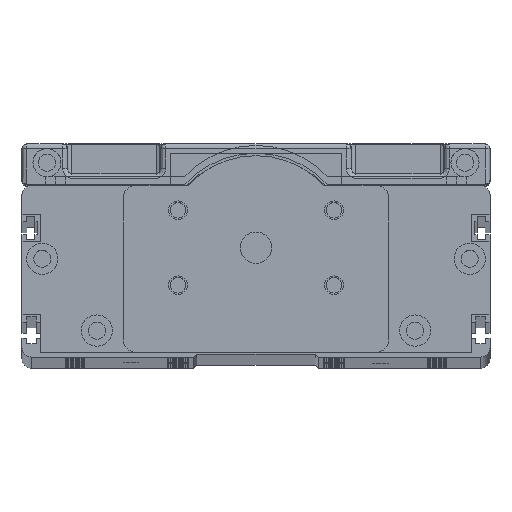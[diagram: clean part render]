
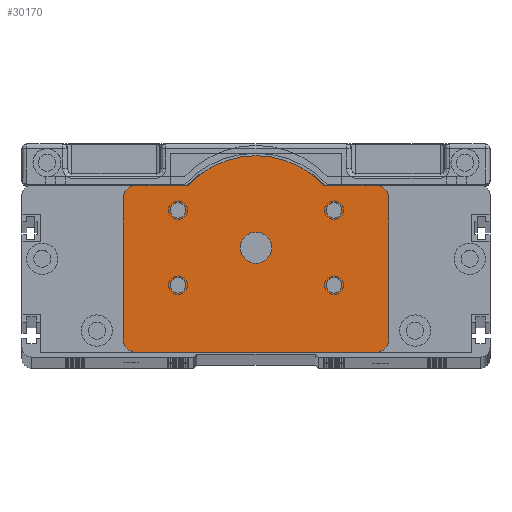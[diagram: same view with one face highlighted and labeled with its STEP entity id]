
A CAD part, top view. The second image highlights one B-rep face of the part: STEP entity #30170.
In plain terms, the highlighted planar face has unit normal (0, 0, 1).
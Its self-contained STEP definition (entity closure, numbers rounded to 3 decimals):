
#28812=CARTESIAN_POINT('',(38.5,49.5,29.));
#28813=DIRECTION('',(0.,0.,1.));
#28814=DIRECTION('',(1.,0.,0.));
#28815=AXIS2_PLACEMENT_3D('',#28812,#28813,#28814);
#28821=CARTESIAN_POINT('',(38.5,4.,29.));
#28822=DIRECTION('',(0.,0.,1.));
#28823=DIRECTION('',(0.,-1.,0.));
#28824=AXIS2_PLACEMENT_3D('',#28821,#28822,#28823);
#28973=CARTESIAN_POINT('',(-38.5,49.5,29.));
#28974=DIRECTION('',(0.,0.,1.));
#28975=DIRECTION('',(0.,1.,0.));
#28976=AXIS2_PLACEMENT_3D('',#28973,#28974,#28975);
#28987=DIRECTION('',(0.,1.,0.));
#28988=VECTOR('',#28987,45.5);
#28989=CARTESIAN_POINT('',(42.5,4.,29.));
#28990=LINE('',#28989,#28988);
#28991=DIRECTION('',(1.,0.,0.));
#28992=VECTOR('',#28991,77.);
#28993=CARTESIAN_POINT('',(-38.5,0.,29.));
#28994=LINE('',#28993,#28992);
#28995=DIRECTION('',(0.,1.,0.));
#28996=VECTOR('',#28995,45.5);
#28997=CARTESIAN_POINT('',(-42.5,4.,29.));
#28998=LINE('',#28997,#28996);
#28999=DIRECTION('',(-1.,0.,0.));
#29000=VECTOR('',#28999,16.815);
#29001=CARTESIAN_POINT('',(-21.685,53.5,29.));
#29002=LINE('',#29001,#29000);
#29003=CARTESIAN_POINT('',(0.,33.5,29.));
#29004=DIRECTION('',(0.,0.,1.));
#29005=DIRECTION('',(0.735,0.678,0.));
#29006=AXIS2_PLACEMENT_3D('',#29003,#29004,#29005);
#29008=DIRECTION('',(-1.,0.,0.));
#29009=VECTOR('',#29008,16.815);
#29010=CARTESIAN_POINT('',(38.5,53.5,29.));
#29011=LINE('',#29010,#29009);
#29012=CARTESIAN_POINT('',(0.,33.5,29.));
#29013=DIRECTION('',(0.,0.,1.));
#29014=DIRECTION('',(1.,0.,0.));
#29015=AXIS2_PLACEMENT_3D('',#29012,#29013,#29014);
#29017=CARTESIAN_POINT('',(0.,33.5,29.));
#29018=DIRECTION('',(0.,0.,1.));
#29019=DIRECTION('',(-1.,0.,0.));
#29020=AXIS2_PLACEMENT_3D('',#29017,#29018,#29019);
#29022=CARTESIAN_POINT('',(25.,45.5,29.));
#29023=DIRECTION('',(0.,0.,-1.));
#29024=DIRECTION('',(-1.,0.,0.));
#29025=AXIS2_PLACEMENT_3D('',#29022,#29023,#29024);
#29027=CARTESIAN_POINT('',(25.,45.5,29.));
#29028=DIRECTION('',(0.,0.,-1.));
#29029=DIRECTION('',(1.,0.,0.));
#29030=AXIS2_PLACEMENT_3D('',#29027,#29028,#29029);
#29032=CARTESIAN_POINT('',(25.,21.5,29.));
#29033=DIRECTION('',(0.,0.,1.));
#29034=DIRECTION('',(-1.,0.,0.));
#29035=AXIS2_PLACEMENT_3D('',#29032,#29033,#29034);
#29037=CARTESIAN_POINT('',(25.,21.5,29.));
#29038=DIRECTION('',(0.,0.,1.));
#29039=DIRECTION('',(1.,0.,0.));
#29040=AXIS2_PLACEMENT_3D('',#29037,#29038,#29039);
#29042=CARTESIAN_POINT('',(-25.,45.5,29.));
#29043=DIRECTION('',(0.,0.,1.));
#29044=DIRECTION('',(1.,0.,0.));
#29045=AXIS2_PLACEMENT_3D('',#29042,#29043,#29044);
#29047=CARTESIAN_POINT('',(-25.,45.5,29.));
#29048=DIRECTION('',(0.,0.,1.));
#29049=DIRECTION('',(-1.,0.,0.));
#29050=AXIS2_PLACEMENT_3D('',#29047,#29048,#29049);
#29052=CARTESIAN_POINT('',(-25.,21.5,29.));
#29053=DIRECTION('',(0.,0.,-1.));
#29054=DIRECTION('',(1.,0.,0.));
#29055=AXIS2_PLACEMENT_3D('',#29052,#29053,#29054);
#29057=CARTESIAN_POINT('',(-25.,21.5,29.));
#29058=DIRECTION('',(0.,0.,-1.));
#29059=DIRECTION('',(-1.,0.,0.));
#29060=AXIS2_PLACEMENT_3D('',#29057,#29058,#29059);
#29075=CARTESIAN_POINT('',(-38.5,4.,29.));
#29076=DIRECTION('',(0.,0.,1.));
#29077=DIRECTION('',(-1.,0.,0.));
#29078=AXIS2_PLACEMENT_3D('',#29075,#29076,#29077);
#29304=CARTESIAN_POINT('',(21.685,53.5,29.));
#29305=CARTESIAN_POINT('',(-21.685,53.5,29.));
#29306=VERTEX_POINT('',#29304);
#29307=VERTEX_POINT('',#29305);
#29352=CARTESIAN_POINT('',(38.5,53.5,29.));
#29354=VERTEX_POINT('',#29352);
#29356=CARTESIAN_POINT('',(42.5,49.5,29.));
#29358=VERTEX_POINT('',#29356);
#29361=CARTESIAN_POINT('',(38.5,0.,29.));
#29363=VERTEX_POINT('',#29361);
#29364=CARTESIAN_POINT('',(42.5,4.,29.));
#29365=VERTEX_POINT('',#29364);
#29369=CARTESIAN_POINT('',(-38.5,53.5,29.));
#29371=VERTEX_POINT('',#29369);
#29372=CARTESIAN_POINT('',(-42.5,49.5,29.));
#29373=VERTEX_POINT('',#29372);
#29376=CARTESIAN_POINT('',(-38.5,0.,29.));
#29378=VERTEX_POINT('',#29376);
#29380=CARTESIAN_POINT('',(-42.5,4.,29.));
#29382=VERTEX_POINT('',#29380);
#29392=CARTESIAN_POINT('',(22.5,45.5,29.));
#29393=CARTESIAN_POINT('',(27.5,45.5,29.));
#29394=VERTEX_POINT('',#29392);
#29395=VERTEX_POINT('',#29393);
#29400=CARTESIAN_POINT('',(22.5,21.5,29.));
#29401=CARTESIAN_POINT('',(27.5,21.5,29.));
#29402=VERTEX_POINT('',#29400);
#29403=VERTEX_POINT('',#29401);
#29408=CARTESIAN_POINT('',(-22.5,45.5,29.));
#29409=CARTESIAN_POINT('',(-27.5,45.5,29.));
#29410=VERTEX_POINT('',#29408);
#29411=VERTEX_POINT('',#29409);
#29416=CARTESIAN_POINT('',(-22.5,21.5,29.));
#29417=CARTESIAN_POINT('',(-27.5,21.5,29.));
#29418=VERTEX_POINT('',#29416);
#29419=VERTEX_POINT('',#29417);
#29540=CARTESIAN_POINT('',(5.,33.5,29.));
#29541=CARTESIAN_POINT('',(-5.,33.5,29.));
#29542=VERTEX_POINT('',#29540);
#29543=VERTEX_POINT('',#29541);
#30120=CARTESIAN_POINT('',(0.,0.,29.));
#30121=DIRECTION('',(0.,0.,1.));
#30122=DIRECTION('',(1.,0.,0.));
#30123=AXIS2_PLACEMENT_3D('',#30120,#30121,#30122);
#30124=PLANE('',#30123);
#30125=ORIENTED_EDGE('',*,*,#29860,.F.);
#30126=ORIENTED_EDGE('',*,*,#29874,.F.);
#30127=ORIENTED_EDGE('',*,*,#29886,.F.);
#30128=ORIENTED_EDGE('',*,*,#29904,.F.);
#30130=ORIENTED_EDGE('',*,*,#30129,.F.);
#30132=ORIENTED_EDGE('',*,*,#30131,.T.);
#30133=ORIENTED_EDGE('',*,*,#30112,.F.);
#30134=ORIENTED_EDGE('',*,*,#29846,.F.);
#30136=ORIENTED_EDGE('',*,*,#30135,.F.);
#30137=ORIENTED_EDGE('',*,*,#29814,.F.);
#30138=EDGE_LOOP('',(#30125,#30126,#30127,#30128,#30130,#30132,#30133,#30134,
#30136,#30137));
#30139=FACE_OUTER_BOUND('',#30138,.F.);
#30141=ORIENTED_EDGE('',*,*,#30140,.T.);
#30143=ORIENTED_EDGE('',*,*,#30142,.T.);
#30144=EDGE_LOOP('',(#30141,#30143));
#30145=FACE_BOUND('',#30144,.F.);
#30147=ORIENTED_EDGE('',*,*,#30146,.F.);
#30149=ORIENTED_EDGE('',*,*,#30148,.F.);
#30150=EDGE_LOOP('',(#30147,#30149));
#30151=FACE_BOUND('',#30150,.F.);
#30153=ORIENTED_EDGE('',*,*,#30152,.T.);
#30155=ORIENTED_EDGE('',*,*,#30154,.T.);
#30156=EDGE_LOOP('',(#30153,#30155));
#30157=FACE_BOUND('',#30156,.F.);
#30159=ORIENTED_EDGE('',*,*,#30158,.T.);
#30161=ORIENTED_EDGE('',*,*,#30160,.T.);
#30162=EDGE_LOOP('',(#30159,#30161));
#30163=FACE_BOUND('',#30162,.F.);
#30165=ORIENTED_EDGE('',*,*,#30164,.F.);
#30167=ORIENTED_EDGE('',*,*,#30166,.F.);
#30168=EDGE_LOOP('',(#30165,#30167));
#30169=FACE_BOUND('',#30168,.F.);
#30170=ADVANCED_FACE('',(#30139,#30145,#30151,#30157,#30163,#30169),#30124,.T.);
#28816=CIRCLE('',#28815,4.);
#28825=CIRCLE('',#28824,4.);
#28977=CIRCLE('',#28976,4.);
#29007=CIRCLE('',#29006,29.5);
#29016=CIRCLE('',#29015,5.);
#29021=CIRCLE('',#29020,5.);
#29026=CIRCLE('',#29025,2.5);
#29031=CIRCLE('',#29030,2.5);
#29036=CIRCLE('',#29035,2.5);
#29041=CIRCLE('',#29040,2.5);
#29046=CIRCLE('',#29045,2.5);
#29051=CIRCLE('',#29050,2.5);
#29056=CIRCLE('',#29055,2.5);
#29061=CIRCLE('',#29060,2.5);
#29079=CIRCLE('',#29078,4.);
#29814=EDGE_CURVE('',#29354,#29306,#29011,.T.);
#29846=EDGE_CURVE('',#29307,#29371,#29002,.T.);
#29860=EDGE_CURVE('',#29358,#29354,#28816,.T.);
#29874=EDGE_CURVE('',#29365,#29358,#28990,.T.);
#29886=EDGE_CURVE('',#29363,#29365,#28825,.T.);
#29904=EDGE_CURVE('',#29378,#29363,#28994,.T.);
#30112=EDGE_CURVE('',#29371,#29373,#28977,.T.);
#30129=EDGE_CURVE('',#29382,#29378,#29079,.T.);
#30131=EDGE_CURVE('',#29382,#29373,#28998,.T.);
#30135=EDGE_CURVE('',#29306,#29307,#29007,.T.);
#30140=EDGE_CURVE('',#29542,#29543,#29016,.T.);
#30142=EDGE_CURVE('',#29543,#29542,#29021,.T.);
#30146=EDGE_CURVE('',#29394,#29395,#29026,.T.);
#30148=EDGE_CURVE('',#29395,#29394,#29031,.T.);
#30152=EDGE_CURVE('',#29402,#29403,#29036,.T.);
#30154=EDGE_CURVE('',#29403,#29402,#29041,.T.);
#30158=EDGE_CURVE('',#29410,#29411,#29046,.T.);
#30160=EDGE_CURVE('',#29411,#29410,#29051,.T.);
#30164=EDGE_CURVE('',#29418,#29419,#29056,.T.);
#30166=EDGE_CURVE('',#29419,#29418,#29061,.T.);
